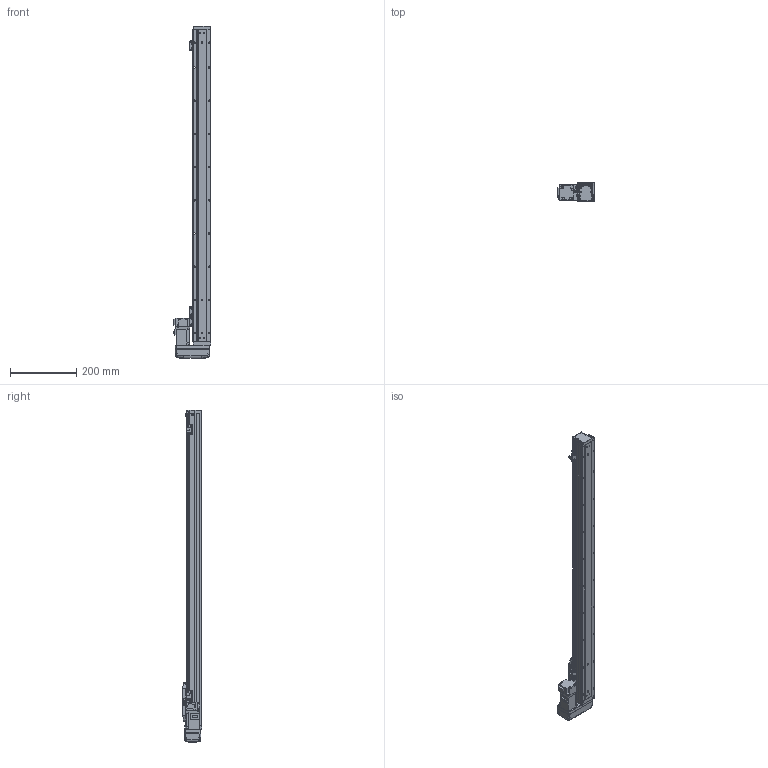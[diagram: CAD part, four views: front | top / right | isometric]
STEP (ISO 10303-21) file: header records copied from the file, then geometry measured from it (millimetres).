
FILE_DESCRIPTION (( 'STEP AP203' ), '1' );
FILE_NAME ('GTH5-800-BL-M10-C4.step', '2022-09-23T00:45:41', ( '微软用户' ), ( '微软中国' ), 'SwSTEP 2.0', 'SolidWorks 2020', '' );
FILE_SCHEMA (( 'CONFIG_CONTROL_DESIGN' ));
Length unit declared in the file: millimetre
Products named in the file (19): GTH50-004; GTH50-023; HG-KR13; GBT 70.3-M3℅6; GBT 70.1-M3℅6; GTH50-027-1_BTHA50-027-2; BTH-M3X5X6; GBT96.1-2002 3×0.8; GTH50-026; GTH50-001_800; GTH50-024; GTH5-800-BL-M10-C4; GBT 70.1-M4×16; GBT 70.1-M2.5×6; GTH50-003; GTH50-028; GTH50-006; GTH50-013; GTH50-022-1
Assembly tree (57 placements, depth 2):
  GTH5-800-BL-M10-C4
    GTH50-006
    GTH50-004
    GBT 70.3-M3℅6  x4
    BTH-M3X5X6  x8
    GTH50-001_800
    GBT 70.1-M4×16  x8
    GTH50-003
    GTH50-013
    GTH50-023  x3
    GBT 70.1-M3℅6  x12
    GBT96.1-2002 3×0.8  x6
    GTH50-024  x3
    GBT 70.1-M2.5×6  x2
    GTH50-028  x2
    GTH50-022-1
    HG-KR13
    GTH50-027-1_BTHA50-027-2
    GTH50-026
Bounding box: 113.8 x 60 x 1000 mm (x, y, z)
Volume: 2225928 mm3; surface area: 353194.4 mm2
Topology: 59 solids, 59 shells, 2168 faces, 5040 edges, 3092 vertices
Faces by surface type: plane 1142, cylinder 597, cone 219, torus 162, bspline 40, sphere 8
Entity records: 40456 total; most frequent: CARTESIAN_POINT 7995, DIRECTION 6241, ORIENTED_EDGE 5994, EDGE_CURVE 2997, AXIS2_PLACEMENT_3D 2176, VERTEX_POINT 1894, LINE 1889, VECTOR 1889
